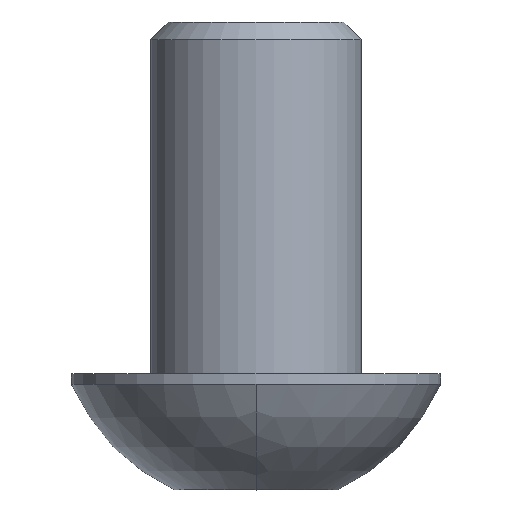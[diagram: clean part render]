
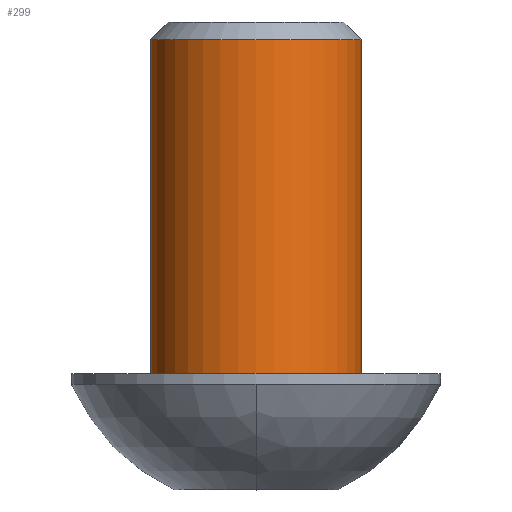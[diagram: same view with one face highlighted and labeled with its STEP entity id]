
A CAD part, top view. The second image highlights one B-rep face of the part: STEP entity #299.
In plain terms, the highlighted cylindrical face has radius 3 mm (diameter 6 mm), a partial arc.
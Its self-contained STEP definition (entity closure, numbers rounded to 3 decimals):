
#24=CARTESIAN_POINT('',(0.,9.5,0.));
#25=DIRECTION('',(0.,1.,0.));
#26=DIRECTION('',(-1.,0.,0.));
#27=AXIS2_PLACEMENT_3D('',#24,#25,#26);
#29=DIRECTION('',(0.,1.,0.));
#30=VECTOR('',#29,9.5);
#31=CARTESIAN_POINT('',(-3.,0.,0.));
#32=LINE('',#31,#30);
#48=CARTESIAN_POINT('',(0.,0.,0.));
#49=DIRECTION('',(0.,1.,0.));
#50=DIRECTION('',(-1.,0.,0.));
#51=AXIS2_PLACEMENT_3D('',#48,#49,#50);
#193=DIRECTION('',(0.,1.,0.));
#194=VECTOR('',#193,9.5);
#195=CARTESIAN_POINT('',(3.,0.,0.));
#196=LINE('',#195,#194);
#201=CARTESIAN_POINT('',(3.,0.,0.));
#202=CARTESIAN_POINT('',(-3.,0.,0.));
#203=VERTEX_POINT('',#201);
#204=VERTEX_POINT('',#202);
#233=CARTESIAN_POINT('',(-3.,9.5,0.));
#234=CARTESIAN_POINT('',(3.,9.5,0.));
#235=VERTEX_POINT('',#233);
#236=VERTEX_POINT('',#234);
#285=CARTESIAN_POINT('',(0.,0.,0.));
#286=DIRECTION('',(0.,1.,0.));
#287=DIRECTION('',(1.,0.,0.));
#288=AXIS2_PLACEMENT_3D('',#285,#286,#287);
#289=CYLINDRICAL_SURFACE('',#288,3.);
#291=ORIENTED_EDGE('',*,*,#290,.F.);
#293=ORIENTED_EDGE('',*,*,#292,.T.);
#294=ORIENTED_EDGE('',*,*,#279,.T.);
#296=ORIENTED_EDGE('',*,*,#295,.F.);
#297=EDGE_LOOP('',(#291,#293,#294,#296));
#298=FACE_OUTER_BOUND('',#297,.F.);
#299=ADVANCED_FACE('',(#298),#289,.T.);
#28=CIRCLE('',#27,3.);
#52=CIRCLE('',#51,3.);
#279=EDGE_CURVE('',#235,#236,#28,.T.);
#290=EDGE_CURVE('',#204,#203,#52,.T.);
#292=EDGE_CURVE('',#204,#235,#32,.T.);
#295=EDGE_CURVE('',#203,#236,#196,.T.);
